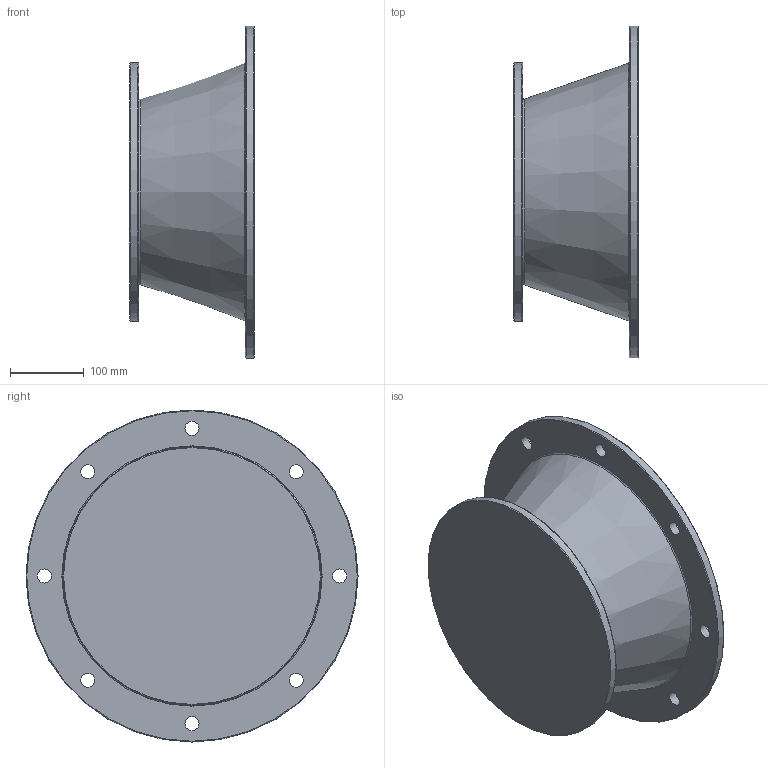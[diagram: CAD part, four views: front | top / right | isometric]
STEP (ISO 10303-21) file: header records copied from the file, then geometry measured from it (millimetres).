
FILE_DESCRIPTION((''),'2;1');
FILE_NAME('C:\Users\oem\Desktop\PAWEŁ\12 PRYWATNE\DualSystem\001 Modele\DKAB100_\DK_100_STEP\225S_B5_L168,5.stp','2011-12-13T13:17:09',('oem'),(''),'Autodesk Inventor 2009','Autodesk Inventor 2009','');
FILE_SCHEMA(('AUTOMOTIVE_DESIGN { 1 0 10303 214 1 1 1 1 }'));
Length unit declared in the file: millimetre
Products named in the file (1): 225S_B5_L168,5
Bounding box: 168.5 x 450 x 450 mm (x, y, z)
Volume: 3272746.2 mm3; surface area: 710169 mm2
Topology: 1 solids, 1 shells, 34 faces, 70 edges, 44 vertices
Faces by surface type: plane 11, bspline 10, cylinder 6, torus 5, cone 2
Full cylindrical faces by diameter (mm): 90 x1, 337.302 x1, 350 x2, 450 x1
Entity records: 1083 total; most frequent: CARTESIAN_POINT 369, DIRECTION 136, ORIENTED_EDGE 96, EDGE_LOOP 78, AXIS2_PLACEMENT_3D 63, EDGE_CURVE 48, VERTEX_POINT 44, FACE_BOUND 44
